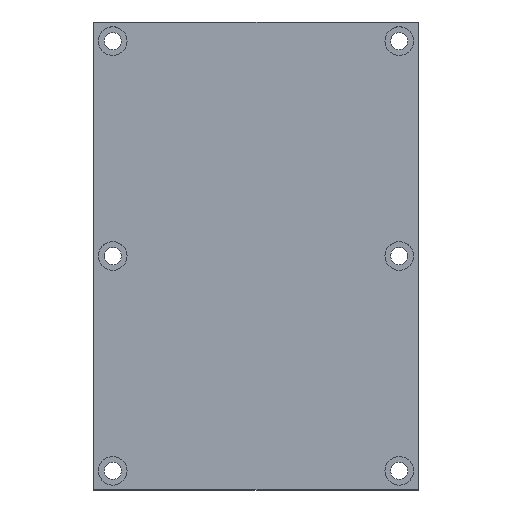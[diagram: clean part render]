
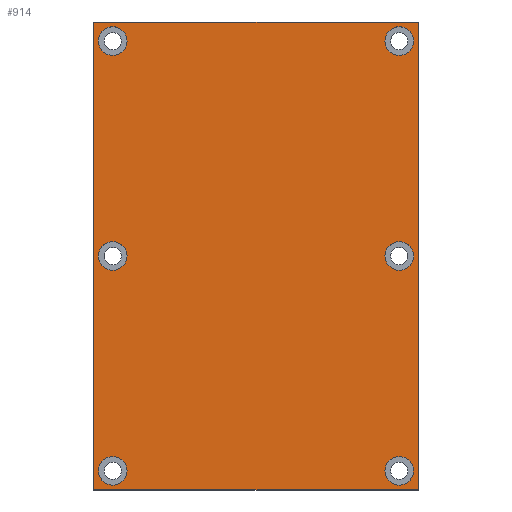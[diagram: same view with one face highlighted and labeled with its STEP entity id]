
A CAD part, top view. The second image highlights one B-rep face of the part: STEP entity #914.
In plain terms, the highlighted planar face has unit normal (0, 0, 1).
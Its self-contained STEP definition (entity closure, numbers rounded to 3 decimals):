
#5 = DIRECTION ( 'NONE',  ( 1., 0., 0. ) ) ;
#16 = AXIS2_PLACEMENT_3D ( 'NONE', #973, #561, #978 ) ;
#39 = EDGE_CURVE ( 'NONE', #132, #1492, #1357, .T. ) ;
#91 = DIRECTION ( 'NONE',  ( 1., 0., 0. ) ) ;
#100 = CARTESIAN_POINT ( 'NONE',  ( -67.5, 0., 30. ) ) ;
#101 = ORIENTED_EDGE ( 'NONE', *, *, #822, .F. ) ;
#105 = ORIENTED_EDGE ( 'NONE', *, *, #630, .F. ) ;
#114 = VERTEX_POINT ( 'NONE', #1358 ) ;
#116 = EDGE_LOOP ( 'NONE', ( #395, #1502, #249, #1630 ) ) ;
#119 = EDGE_CURVE ( 'NONE', #371, #985, #1650, .T. ) ;
#122 = DIRECTION ( 'NONE',  ( -1., 0., 0. ) ) ;
#127 = CARTESIAN_POINT ( 'NONE',  ( 82.5, 0., 30. ) ) ;
#132 = VERTEX_POINT ( 'NONE', #1731 ) ;
#139 = CARTESIAN_POINT ( 'NONE',  ( 85., 122.5, 30. ) ) ;
#144 = EDGE_CURVE ( 'NONE', #1664, #944, #1275, .T. ) ;
#145 = ORIENTED_EDGE ( 'NONE', *, *, #119, .F. ) ;
#150 = VECTOR ( 'NONE', #5, 1000. ) ;
#167 = EDGE_CURVE ( 'NONE', #985, #371, #882, .T. ) ;
#176 = CARTESIAN_POINT ( 'NONE',  ( -82.5, 0., 30. ) ) ;
#179 = EDGE_LOOP ( 'NONE', ( #1483, #746 ) ) ;
#190 = AXIS2_PLACEMENT_3D ( 'NONE', #419, #703, #593 ) ;
#209 = FACE_BOUND ( 'NONE', #179, .T. ) ;
#211 = AXIS2_PLACEMENT_3D ( 'NONE', #672, #1647, #683 ) ;
#220 = LINE ( 'NONE', #1667, #1604 ) ;
#237 = CIRCLE ( 'NONE', #1114, 7.5 ) ;
#239 = CARTESIAN_POINT ( 'NONE',  ( -82.5, -112.5, 30. ) ) ;
#247 = DIRECTION ( 'NONE',  ( 1., 0., 0. ) ) ;
#249 = ORIENTED_EDGE ( 'NONE', *, *, #1614, .T. ) ;
#251 = FACE_BOUND ( 'NONE', #274, .T. ) ;
#258 = DIRECTION ( 'NONE',  ( 0., -1., 0. ) ) ;
#265 = CARTESIAN_POINT ( 'NONE',  ( 75., -112.5, 30. ) ) ;
#268 = VERTEX_POINT ( 'NONE', #139 ) ;
#274 = EDGE_LOOP ( 'NONE', ( #1297, #1164 ) ) ;
#275 = DIRECTION ( 'NONE',  ( 0., 0., 1. ) ) ;
#282 = DIRECTION ( 'NONE',  ( 1., 0., 0. ) ) ;
#283 = DIRECTION ( 'NONE',  ( 1., 0., 0. ) ) ;
#326 = EDGE_LOOP ( 'NONE', ( #145, #1571 ) ) ;
#328 = EDGE_LOOP ( 'NONE', ( #105, #478 ) ) ;
#350 = CARTESIAN_POINT ( 'NONE',  ( -67.5, 112.5, 30. ) ) ;
#370 = EDGE_LOOP ( 'NONE', ( #621, #101 ) ) ;
#371 = VERTEX_POINT ( 'NONE', #511 ) ;
#375 = AXIS2_PLACEMENT_3D ( 'NONE', #613, #601, #1108 ) ;
#380 = AXIS2_PLACEMENT_3D ( 'NONE', #810, #1102, #283 ) ;
#394 = CARTESIAN_POINT ( 'NONE',  ( -82.5, 112.5, 30. ) ) ;
#395 = ORIENTED_EDGE ( 'NONE', *, *, #39, .T. ) ;
#411 = DIRECTION ( 'NONE',  ( 1., 0., 0. ) ) ;
#419 = CARTESIAN_POINT ( 'NONE',  ( 0., 0., 30. ) ) ;
#422 = DIRECTION ( 'NONE',  ( 0., 0., 1. ) ) ;
#429 = CARTESIAN_POINT ( 'NONE',  ( -75., 112.5, 30. ) ) ;
#452 = ORIENTED_EDGE ( 'NONE', *, *, #1278, .F. ) ;
#456 = PLANE ( 'NONE',  #190 ) ;
#467 = CARTESIAN_POINT ( 'NONE',  ( 85., -122.5, 30. ) ) ;
#478 = ORIENTED_EDGE ( 'NONE', *, *, #1680, .F. ) ;
#489 = CARTESIAN_POINT ( 'NONE',  ( -85., -122.5, 30. ) ) ;
#511 = CARTESIAN_POINT ( 'NONE',  ( -67.5, -112.5, 30. ) ) ;
#530 = CARTESIAN_POINT ( 'NONE',  ( -75., 0., 30. ) ) ;
#536 = AXIS2_PLACEMENT_3D ( 'NONE', #1496, #608, #1477 ) ;
#539 = FACE_BOUND ( 'NONE', #370, .T. ) ;
#547 = AXIS2_PLACEMENT_3D ( 'NONE', #761, #1121, #1063 ) ;
#561 = DIRECTION ( 'NONE',  ( 0., 0., 1. ) ) ;
#574 = VECTOR ( 'NONE', #122, 1000. ) ;
#587 = EDGE_CURVE ( 'NONE', #268, #132, #949, .T. ) ;
#593 = DIRECTION ( 'NONE',  ( 1., 0., 0. ) ) ;
#599 = CARTESIAN_POINT ( 'NONE',  ( 82.5, 112.5, 30. ) ) ;
#601 = DIRECTION ( 'NONE',  ( 0., 0., 1. ) ) ;
#608 = DIRECTION ( 'NONE',  ( 0., 0., 1. ) ) ;
#613 = CARTESIAN_POINT ( 'NONE',  ( 75., 112.5, 30. ) ) ;
#618 = CIRCLE ( 'NONE', #1519, 7.5 ) ;
#621 = ORIENTED_EDGE ( 'NONE', *, *, #1300, .F. ) ;
#625 = EDGE_CURVE ( 'NONE', #1129, #1119, #618, .T. ) ;
#626 = DIRECTION ( 'NONE',  ( 1., 0., 0. ) ) ;
#630 = EDGE_CURVE ( 'NONE', #848, #1539, #1628, .T. ) ;
#672 = CARTESIAN_POINT ( 'NONE',  ( -75., -112.5, 30. ) ) ;
#683 = DIRECTION ( 'NONE',  ( 1., 0., 0. ) ) ;
#703 = DIRECTION ( 'NONE',  ( 0., 0., 1. ) ) ;
#704 = VERTEX_POINT ( 'NONE', #467 ) ;
#746 = ORIENTED_EDGE ( 'NONE', *, *, #144, .F. ) ;
#761 = CARTESIAN_POINT ( 'NONE',  ( -75., -112.5, 30. ) ) ;
#765 = VERTEX_POINT ( 'NONE', #1686 ) ;
#770 = DIRECTION ( 'NONE',  ( 0., 0., 1. ) ) ;
#810 = CARTESIAN_POINT ( 'NONE',  ( 75., 112.5, 30. ) ) ;
#818 = AXIS2_PLACEMENT_3D ( 'NONE', #265, #275, #282 ) ;
#822 = EDGE_CURVE ( 'NONE', #1204, #1151, #845, .T. ) ;
#845 = CIRCLE ( 'NONE', #16, 7.5 ) ;
#847 = LINE ( 'NONE', #1170, #150 ) ;
#848 = VERTEX_POINT ( 'NONE', #350 ) ;
#863 = FACE_OUTER_BOUND ( 'NONE', #116, .T. ) ;
#873 = CIRCLE ( 'NONE', #1515, 7.5 ) ;
#882 = CIRCLE ( 'NONE', #547, 7.5 ) ;
#884 = DIRECTION ( 'NONE',  ( 1., 0., 0. ) ) ;
#898 = DIRECTION ( 'NONE',  ( 0., 0., 1. ) ) ;
#914 = ADVANCED_FACE ( 'NONE', ( #251, #1342, #539, #209, #1597, #1256, #863 ), #456, .T. ) ;
#942 = CIRCLE ( 'NONE', #1015, 7.5 ) ;
#944 = VERTEX_POINT ( 'NONE', #599 ) ;
#949 = LINE ( 'NONE', #1309, #574 ) ;
#964 = CARTESIAN_POINT ( 'NONE',  ( 67.5, 0., 30. ) ) ;
#973 = CARTESIAN_POINT ( 'NONE',  ( 75., 0., 30. ) ) ;
#974 = VECTOR ( 'NONE', #258, 1000. ) ;
#978 = DIRECTION ( 'NONE',  ( 1., 0., 0. ) ) ;
#985 = VERTEX_POINT ( 'NONE', #239 ) ;
#993 = CARTESIAN_POINT ( 'NONE',  ( 67.5, 112.5, 30. ) ) ;
#1015 = AXIS2_PLACEMENT_3D ( 'NONE', #530, #898, #884 ) ;
#1063 = DIRECTION ( 'NONE',  ( 1., 0., 0. ) ) ;
#1102 = DIRECTION ( 'NONE',  ( 0., 0., 1. ) ) ;
#1108 = DIRECTION ( 'NONE',  ( 1., 0., 0. ) ) ;
#1114 = AXIS2_PLACEMENT_3D ( 'NONE', #1450, #1486, #91 ) ;
#1119 = VERTEX_POINT ( 'NONE', #176 ) ;
#1121 = DIRECTION ( 'NONE',  ( 0., 0., 1. ) ) ;
#1129 = VERTEX_POINT ( 'NONE', #100 ) ;
#1130 = CIRCLE ( 'NONE', #375, 7.5 ) ;
#1148 = EDGE_CURVE ( 'NONE', #944, #1664, #1130, .T. ) ;
#1151 = VERTEX_POINT ( 'NONE', #127 ) ;
#1164 = ORIENTED_EDGE ( 'NONE', *, *, #1418, .F. ) ;
#1170 = CARTESIAN_POINT ( 'NONE',  ( 85., -122.5, 30. ) ) ;
#1204 = VERTEX_POINT ( 'NONE', #964 ) ;
#1206 = DIRECTION ( 'NONE',  ( 0., 0., 1. ) ) ;
#1240 = CIRCLE ( 'NONE', #536, 7.5 ) ;
#1252 = ORIENTED_EDGE ( 'NONE', *, *, #625, .F. ) ;
#1256 = FACE_BOUND ( 'NONE', #328, .T. ) ;
#1275 = CIRCLE ( 'NONE', #380, 7.5 ) ;
#1278 = EDGE_CURVE ( 'NONE', #1119, #1129, #942, .T. ) ;
#1297 = ORIENTED_EDGE ( 'NONE', *, *, #1355, .F. ) ;
#1300 = EDGE_CURVE ( 'NONE', #1151, #1204, #237, .T. ) ;
#1309 = CARTESIAN_POINT ( 'NONE',  ( 85., 122.5, 30. ) ) ;
#1342 = FACE_BOUND ( 'NONE', #1572, .T. ) ;
#1355 = EDGE_CURVE ( 'NONE', #114, #765, #1240, .T. ) ;
#1357 = LINE ( 'NONE', #489, #974 ) ;
#1358 = CARTESIAN_POINT ( 'NONE',  ( 82.5, -112.5, 30. ) ) ;
#1366 = EDGE_CURVE ( 'NONE', #1492, #704, #847, .T. ) ;
#1388 = CARTESIAN_POINT ( 'NONE',  ( -85., -122.5, 30. ) ) ;
#1418 = EDGE_CURVE ( 'NONE', #765, #114, #1487, .T. ) ;
#1450 = CARTESIAN_POINT ( 'NONE',  ( 75., 0., 30. ) ) ;
#1477 = DIRECTION ( 'NONE',  ( 1., 0., 0. ) ) ;
#1483 = ORIENTED_EDGE ( 'NONE', *, *, #1148, .F. ) ;
#1486 = DIRECTION ( 'NONE',  ( 0., 0., 1. ) ) ;
#1487 = CIRCLE ( 'NONE', #818, 7.5 ) ;
#1492 = VERTEX_POINT ( 'NONE', #1388 ) ;
#1496 = CARTESIAN_POINT ( 'NONE',  ( 75., -112.5, 30. ) ) ;
#1502 = ORIENTED_EDGE ( 'NONE', *, *, #1366, .T. ) ;
#1515 = AXIS2_PLACEMENT_3D ( 'NONE', #429, #422, #411 ) ;
#1519 = AXIS2_PLACEMENT_3D ( 'NONE', #1592, #770, #626 ) ;
#1539 = VERTEX_POINT ( 'NONE', #394 ) ;
#1571 = ORIENTED_EDGE ( 'NONE', *, *, #167, .F. ) ;
#1572 = EDGE_LOOP ( 'NONE', ( #1252, #452 ) ) ;
#1592 = CARTESIAN_POINT ( 'NONE',  ( -75., 0., 30. ) ) ;
#1597 = FACE_BOUND ( 'NONE', #326, .T. ) ;
#1604 = VECTOR ( 'NONE', #1653, 1000. ) ;
#1613 = AXIS2_PLACEMENT_3D ( 'NONE', #1715, #1206, #247 ) ;
#1614 = EDGE_CURVE ( 'NONE', #704, #268, #220, .T. ) ;
#1628 = CIRCLE ( 'NONE', #1613, 7.5 ) ;
#1630 = ORIENTED_EDGE ( 'NONE', *, *, #587, .T. ) ;
#1647 = DIRECTION ( 'NONE',  ( 0., 0., 1. ) ) ;
#1650 = CIRCLE ( 'NONE', #211, 7.5 ) ;
#1653 = DIRECTION ( 'NONE',  ( 0., 1., 0. ) ) ;
#1664 = VERTEX_POINT ( 'NONE', #993 ) ;
#1667 = CARTESIAN_POINT ( 'NONE',  ( 85., -122.5, 30. ) ) ;
#1680 = EDGE_CURVE ( 'NONE', #1539, #848, #873, .T. ) ;
#1686 = CARTESIAN_POINT ( 'NONE',  ( 67.5, -112.5, 30. ) ) ;
#1715 = CARTESIAN_POINT ( 'NONE',  ( -75., 112.5, 30. ) ) ;
#1731 = CARTESIAN_POINT ( 'NONE',  ( -85., 122.5, 30. ) ) ;
